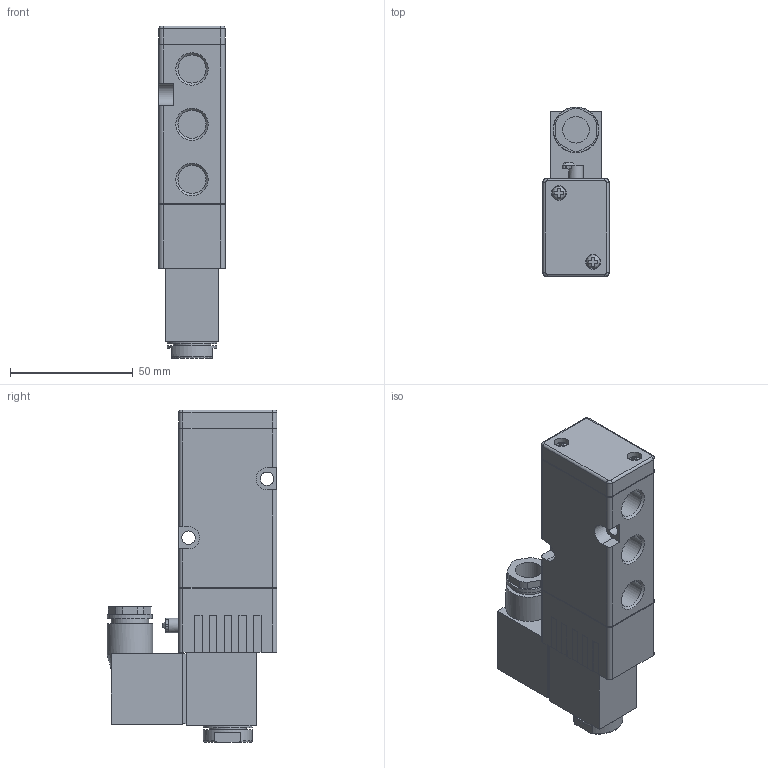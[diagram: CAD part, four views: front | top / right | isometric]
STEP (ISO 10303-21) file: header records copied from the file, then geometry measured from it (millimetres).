
FILE_DESCRIPTION(/* description */ ('STEP AP214'),/* implementation_level */ '2;1');
FILE_NAME(/* name */ '86-MN-4-14-510-M42.stp',/* time_stamp */ '2026-01-15T14:10:50+01:00',/* author */ ('Tschernatsch'),/* organization */ ('CADENAS'),/* preprocessor_version */ 'ST-DEVELOPER v20',/* originating_system */ 'Autodesk Inventor 2024',/* authorisation */ ' ');
FILE_SCHEMA (('AUTOMOTIVE_DESIGN { 1 0 10303 214 3 1 1 }'));
Length unit declared in the file: millimetre
Products named in the file (1): J4V310-08B-DC24V
Bounding box: 27 x 69.2 x 135.2 mm (x, y, z)
Volume: 140743.8 mm3; surface area: 26682.8 mm2
Topology: 1 solids, 1 shells, 242 faces, 609 edges, 389 vertices
Faces by surface type: plane 164, cylinder 52, cone 18, bspline 6, torus 2
Full cylindrical faces by diameter (mm): 5.3 x1, 5.5 x4, 6 x3, 10.8 x1, 11.445 x3, 13 x2, 15.2 x2, 18.4 x1, 18.6 x1, 20 x4
Entity records: 7675 total; most frequent: CARTESIAN_POINT 1526, ORIENTED_EDGE 1218, DIRECTION 1191, EDGE_CURVE 609, LINE 429, VECTOR 429, VERTEX_POINT 389, AXIS2_PLACEMENT_3D 381
